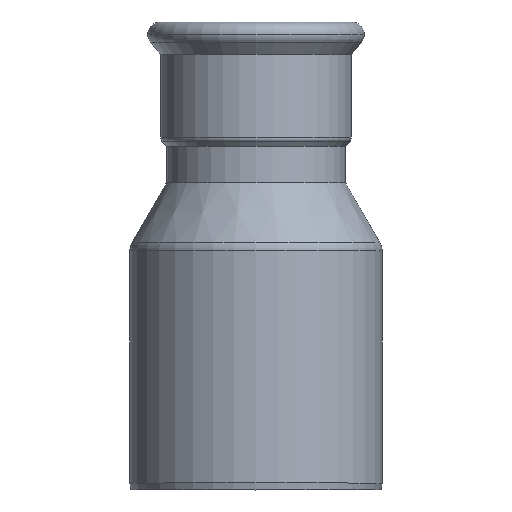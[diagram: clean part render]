
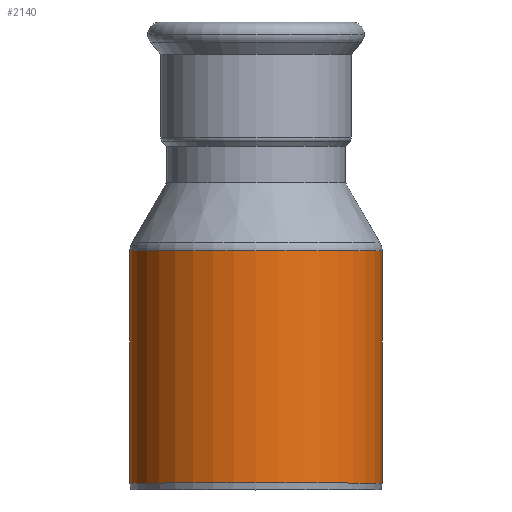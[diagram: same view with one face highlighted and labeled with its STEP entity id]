
A CAD part, top view. The second image highlights one B-rep face of the part: STEP entity #2140.
In plain terms, the highlighted cylindrical face has radius 38.05 mm (diameter 76.1 mm), a partial arc.
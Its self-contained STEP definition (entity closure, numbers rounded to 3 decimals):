
#110=CARTESIAN_POINT('',(-164.926,-17.35,0.));
#120=VERTEX_POINT('',#110);
#170=CARTESIAN_POINT('',(-202.976,-17.35,0.));
#180=DIRECTION('',(0.,-1.,0.));
#190=DIRECTION('',(-1.,0.,0.));
#200=AXIS2_PLACEMENT_3D('',#170,#180,#190);
#210=CIRCLE('',#200,38.05);
#220=CARTESIAN_POINT('',(-241.026,-17.35,0.));
#230=VERTEX_POINT('',#220);
#240=EDGE_CURVE('',#120,#230,#210,.T.);
#560=CARTESIAN_POINT('',(-164.926,-87.379,0.));
#570=VERTEX_POINT('',#560);
#600=CARTESIAN_POINT('',(-202.976,-87.379,0.));
#610=DIRECTION('',(0.,-1.,0.));
#620=DIRECTION('',(-1.,0.,0.));
#630=AXIS2_PLACEMENT_3D('',#600,#610,#620);
#640=CIRCLE('',#630,38.05);
#650=CARTESIAN_POINT('',(-241.026,-87.379,
0.));
#660=VERTEX_POINT('',#650);
#1920=CARTESIAN_POINT('',(-202.976,33.421,0.));
#1930=DIRECTION('',(0.,-1.,0.));
#1940=DIRECTION('',(1.,0.,0.));
#1950=AXIS2_PLACEMENT_3D('',#1920,#1930,#1940);
#1960=CYLINDRICAL_SURFACE('',#1950,38.05);
#1970=CARTESIAN_POINT('',(-164.926,33.421,0.));
#1980=DIRECTION('',(0.,-1.,0.));
#1990=VECTOR('',#1980,1.);
#2000=LINE('',#1970,#1990);
#2010=EDGE_CURVE('',#120,#570,#2000,.T.);
#2020=ORIENTED_EDGE('',*,*,#2010,.F.);
#2030=EDGE_CURVE('',#570,#660,#640,.T.);
#2040=ORIENTED_EDGE('',*,*,#2030,.F.);
#2050=CARTESIAN_POINT('',(-241.026,33.421,
0.));
#2060=DIRECTION('',(0.,-1.,0.));
#2070=VECTOR('',#2060,1.);
#2080=LINE('',#2050,#2070);
#2090=EDGE_CURVE('',#230,#660,#2080,.T.);
#2100=ORIENTED_EDGE('',*,*,#2090,.T.);
#2110=ORIENTED_EDGE('',*,*,#240,.T.);
#2120=EDGE_LOOP('',(#2110,#2100,#2040,#2020));
#2130=FACE_OUTER_BOUND('',#2120,.T.);
#2140=ADVANCED_FACE('',(#2130),#1960,.T.);
